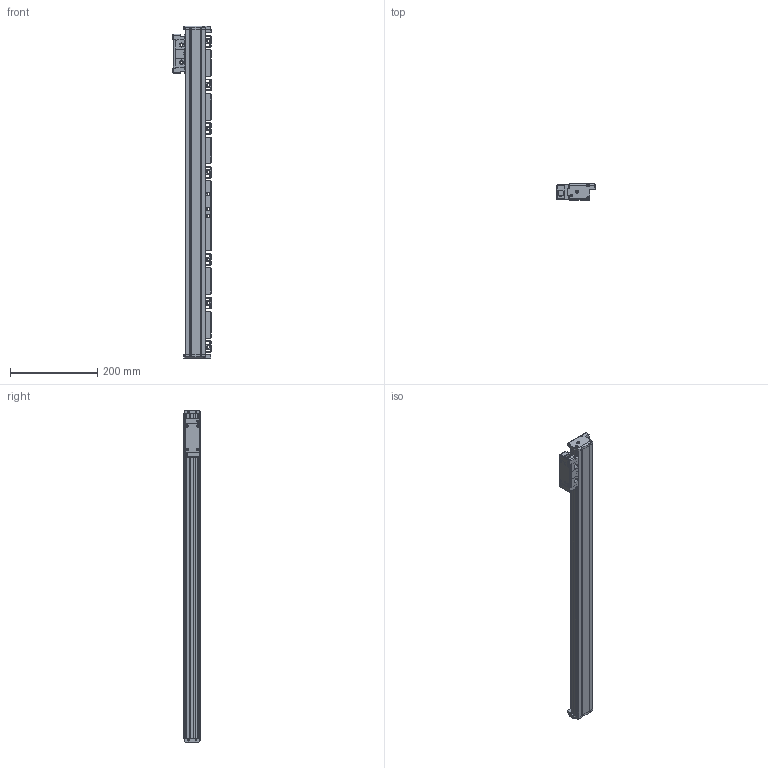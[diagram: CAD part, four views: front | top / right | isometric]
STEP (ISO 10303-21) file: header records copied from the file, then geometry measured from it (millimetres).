
FILE_DESCRIPTION(/* description */ (''),/* implementation_level */ '2;1');
FILE_NAME(/* name */ 'JC21A-640-1.stp',/* time_stamp */ '2023-12-21T16:36:48+08:00',/* author */ (''),/* organization */ (''),/* preprocessor_version */ 'ST-DEVELOPER v14',/* originating_system */ 'SIEMENS PLM Software NX 8.0',/* authorisation */ '');
FILE_SCHEMA (('CONFIG_CONTROL_DESIGN'));
Length unit declared in the file: millimetre
Products named in the file (1): JC21A-640-1
Bounding box: 87.5 x 37 x 761 mm (x, y, z)
Volume: 1241036.2 mm3; surface area: 216376.6 mm2
Topology: 4 solids, 6 shells, 643 faces, 1856 edges, 1229 vertices
Faces by surface type: plane 398, cylinder 213, cone 22, bspline 8, extrusion 2
Full cylindrical faces by diameter (mm): 2.5 x12, 3.3 x6, 3.7 x4, 4.2 x4, 5 x2, 6 x6, 6.6 x2, 6.8 x10, 7 x2, 13.2 x2
Entity records: 21339 total; most frequent: CARTESIAN_POINT 4331, ORIENTED_EDGE 3516, DIRECTION 3486, EDGE_CURVE 1758, VERTEX_POINT 1203, VECTOR 1176, LINE 1174, AXIS2_PLACEMENT_3D 1155
